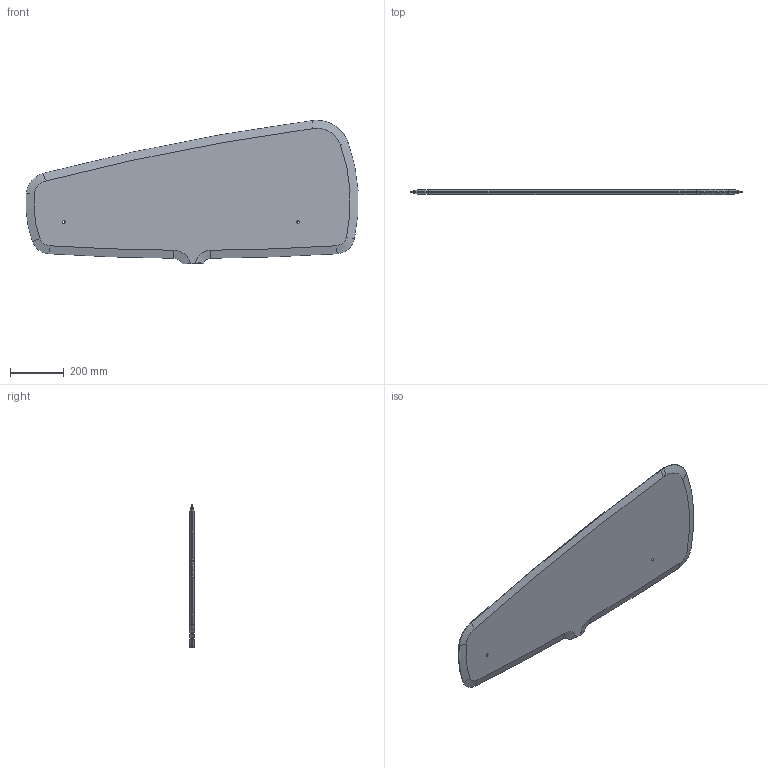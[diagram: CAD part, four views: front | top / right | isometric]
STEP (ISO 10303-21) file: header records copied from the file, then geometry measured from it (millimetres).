
FILE_DESCRIPTION (( 'STEP AP203' ), '1' );
FILE_NAME ('BALDA_E.STEP', '2017-05-05T10:50:07', ( 'Usuario' ), ( '' ), 'SwSTEP 2.0', 'SolidWorks 2016', '' );
FILE_SCHEMA (( 'CONFIG_CONTROL_DESIGN' ));
Length unit declared in the file: millimetre
Products named in the file (1): BALDA_E
Bounding box: 1236.98 x 18 x 534.25 mm (x, y, z)
Volume: 8506712.6 mm3; surface area: 1039043.6 mm2
Topology: 1 solids, 1 shells, 47 faces, 111 edges, 66 vertices
Faces by surface type: cone 17, cylinder 12, plane 9, bspline 9
Entity records: 1566 total; most frequent: CARTESIAN_POINT 446, ORIENTED_EDGE 222, DIRECTION 207, EDGE_CURVE 111, AXIS2_PLACEMENT_3D 81, VERTEX_POINT 66, EDGE_LOOP 51, FACE_OUTER_BOUND 47
